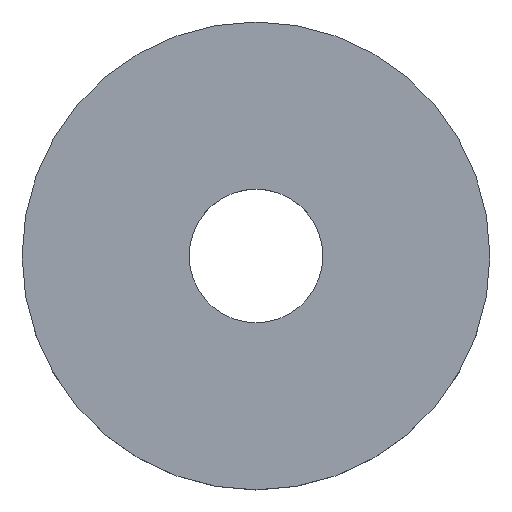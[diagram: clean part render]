
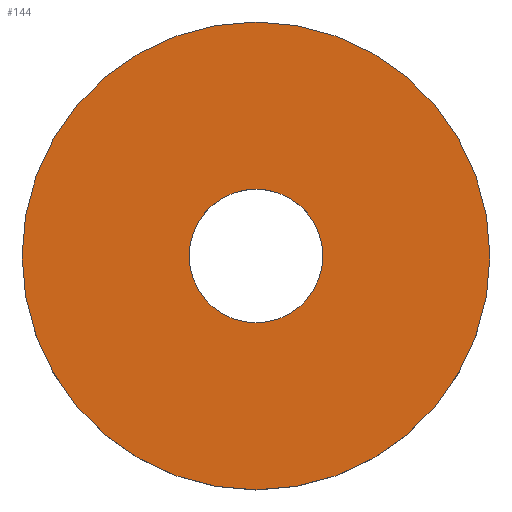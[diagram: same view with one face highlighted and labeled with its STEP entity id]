
A CAD part, top view. The second image highlights one B-rep face of the part: STEP entity #144.
In plain terms, the highlighted planar face has unit normal (0, 0, 1).
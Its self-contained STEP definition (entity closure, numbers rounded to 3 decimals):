
#24 = VERTEX_POINT('',#25);
#25 = CARTESIAN_POINT('',(35.,0.,10.));
#32 = CYLINDRICAL_SURFACE('',#33,35.);
#33 = AXIS2_PLACEMENT_3D('',#34,#35,#36);
#34 = CARTESIAN_POINT('',(0.,0.,0.));
#35 = DIRECTION('',(-0.,-0.,-1.));
#36 = DIRECTION('',(1.,0.,0.));
#51 = EDGE_CURVE('',#24,#24,#52,.T.);
#52 = SURFACE_CURVE('',#53,(#58,#65),.PCURVE_S1.);
#53 = CIRCLE('',#54,35.);
#54 = AXIS2_PLACEMENT_3D('',#55,#56,#57);
#55 = CARTESIAN_POINT('',(0.,0.,10.));
#56 = DIRECTION('',(0.,0.,1.));
#57 = DIRECTION('',(1.,0.,0.));
#58 = PCURVE('',#32,#59);
#59 = DEFINITIONAL_REPRESENTATION('',(#60),#64);
#60 = LINE('',#61,#62);
#61 = CARTESIAN_POINT('',(-0.,-10.));
#62 = VECTOR('',#63,1.);
#63 = DIRECTION('',(-1.,0.));
#64 = ( GEOMETRIC_REPRESENTATION_CONTEXT(2) 
PARAMETRIC_REPRESENTATION_CONTEXT() REPRESENTATION_CONTEXT('2D SPACE',''
  ) );
#65 = PCURVE('',#66,#71);
#66 = PLANE('',#67);
#67 = AXIS2_PLACEMENT_3D('',#68,#69,#70);
#68 = CARTESIAN_POINT('',(0.,0.,10.));
#69 = DIRECTION('',(0.,0.,1.));
#70 = DIRECTION('',(1.,0.,-0.));
#71 = DEFINITIONAL_REPRESENTATION('',(#72),#76);
#72 = CIRCLE('',#73,35.);
#73 = AXIS2_PLACEMENT_2D('',#74,#75);
#74 = CARTESIAN_POINT('',(0.,0.));
#75 = DIRECTION('',(1.,0.));
#76 = ( GEOMETRIC_REPRESENTATION_CONTEXT(2) 
PARAMETRIC_REPRESENTATION_CONTEXT() REPRESENTATION_CONTEXT('2D SPACE',''
  ) );
#133 = CYLINDRICAL_SURFACE('',#134,10.);
#134 = AXIS2_PLACEMENT_3D('',#135,#136,#137);
#135 = CARTESIAN_POINT('',(0.,0.,-1.));
#136 = DIRECTION('',(-0.,-0.,-1.));
#137 = DIRECTION('',(1.,0.,0.));
#144 = ADVANCED_FACE('',(#145,#148),#66,.T.);
#145 = FACE_BOUND('',#146,.T.);
#146 = EDGE_LOOP('',(#147));
#147 = ORIENTED_EDGE('',*,*,#51,.T.);
#148 = FACE_BOUND('',#149,.T.);
#149 = EDGE_LOOP('',(#150));
#150 = ORIENTED_EDGE('',*,*,#151,.T.);
#151 = EDGE_CURVE('',#152,#152,#154,.T.);
#152 = VERTEX_POINT('',#153);
#153 = CARTESIAN_POINT('',(10.,0.,10.));
#154 = SURFACE_CURVE('',#155,(#160,#171),.PCURVE_S1.);
#155 = CIRCLE('',#156,10.);
#156 = AXIS2_PLACEMENT_3D('',#157,#158,#159);
#157 = CARTESIAN_POINT('',(0.,0.,10.));
#158 = DIRECTION('',(0.,0.,-1.));
#159 = DIRECTION('',(1.,0.,0.));
#160 = PCURVE('',#66,#161);
#161 = DEFINITIONAL_REPRESENTATION('',(#162),#170);
#162 = ( BOUNDED_CURVE() B_SPLINE_CURVE(2,(#163,#164,#165,#166,#167,#168
,#169),.UNSPECIFIED.,.T.,.F.) B_SPLINE_CURVE_WITH_KNOTS((1,2,2,2,2,1),(
    -2.094,0.,2.094,4.189,6.283,
8.378),.UNSPECIFIED.) CURVE() GEOMETRIC_REPRESENTATION_ITEM() 
RATIONAL_B_SPLINE_CURVE((1.,0.5,1.,0.5,1.,0.5,1.)) REPRESENTATION_ITEM(
  '') );
#163 = CARTESIAN_POINT('',(10.,0.));
#164 = CARTESIAN_POINT('',(10.,-17.321));
#165 = CARTESIAN_POINT('',(-5.,-8.66));
#166 = CARTESIAN_POINT('',(-20.,0.));
#167 = CARTESIAN_POINT('',(-5.,8.66));
#168 = CARTESIAN_POINT('',(10.,17.321));
#169 = CARTESIAN_POINT('',(10.,0.));
#170 = ( GEOMETRIC_REPRESENTATION_CONTEXT(2) 
PARAMETRIC_REPRESENTATION_CONTEXT() REPRESENTATION_CONTEXT('2D SPACE',''
  ) );
#171 = PCURVE('',#133,#172);
#172 = DEFINITIONAL_REPRESENTATION('',(#173),#177);
#173 = LINE('',#174,#175);
#174 = CARTESIAN_POINT('',(-6.283,-11.));
#175 = VECTOR('',#176,1.);
#176 = DIRECTION('',(1.,-0.));
#177 = ( GEOMETRIC_REPRESENTATION_CONTEXT(2) 
PARAMETRIC_REPRESENTATION_CONTEXT() REPRESENTATION_CONTEXT('2D SPACE',''
  ) );
